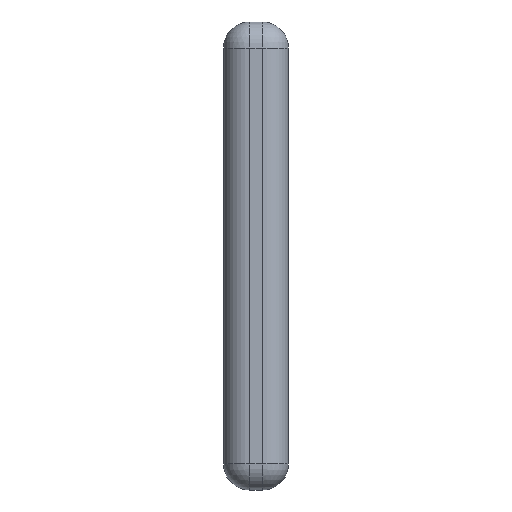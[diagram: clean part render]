
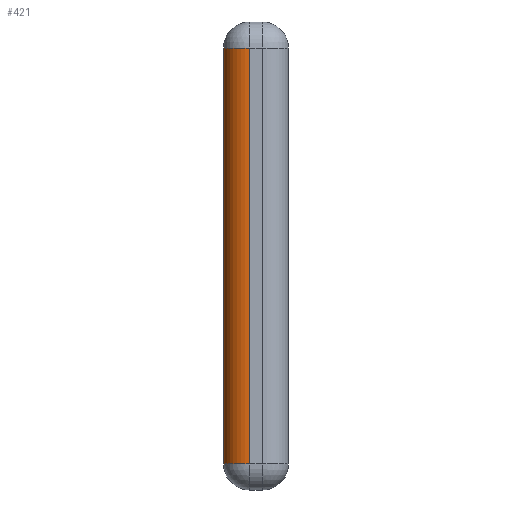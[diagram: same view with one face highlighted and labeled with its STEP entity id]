
A CAD part, front view. The second image highlights one B-rep face of the part: STEP entity #421.
In plain terms, the highlighted cylindrical face has radius 0.8 mm (diameter 1.6 mm), a partial arc.
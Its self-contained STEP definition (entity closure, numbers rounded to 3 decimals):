
#21 = EDGE_CURVE('',#22,#24,#26,.T.);
#22 = VERTEX_POINT('',#23);
#23 = CARTESIAN_POINT('',(-61.2,-1.9,30.6));
#24 = VERTEX_POINT('',#25);
#25 = CARTESIAN_POINT('',(-61.2,-1.9,43.4));
#26 = SURFACE_CURVE('',#27,(#31,#43),.PCURVE_S1.);
#27 = LINE('',#28,#29);
#28 = CARTESIAN_POINT('',(-61.2,-1.9,29.8));
#29 = VECTOR('',#30,1.);
#30 = DIRECTION('',(0.,0.,1.));
#31 = PCURVE('',#32,#37);
#32 = PLANE('',#33);
#33 = AXIS2_PLACEMENT_3D('',#34,#35,#36);
#34 = CARTESIAN_POINT('',(-61.2,-2.7,29.8));
#35 = DIRECTION('',(1.,0.,0.));
#36 = DIRECTION('',(0.,0.,1.));
#37 = DEFINITIONAL_REPRESENTATION('',(#38),#42);
#38 = LINE('',#39,#40);
#39 = CARTESIAN_POINT('',(0.,-0.8));
#40 = VECTOR('',#41,1.);
#41 = DIRECTION('',(1.,0.));
#42 = ( GEOMETRIC_REPRESENTATION_CONTEXT(2) 
PARAMETRIC_REPRESENTATION_CONTEXT() REPRESENTATION_CONTEXT('2D SPACE',''
  ) );
#43 = PCURVE('',#44,#49);
#44 = CYLINDRICAL_SURFACE('',#45,0.8);
#45 = AXIS2_PLACEMENT_3D('',#46,#47,#48);
#46 = CARTESIAN_POINT('',(-60.4,-1.9,29.8));
#47 = DIRECTION('',(0.,0.,1.));
#48 = DIRECTION('',(-1.,-0.,0.));
#49 = DEFINITIONAL_REPRESENTATION('',(#50),#54);
#50 = LINE('',#51,#52);
#51 = CARTESIAN_POINT('',(0.,0.));
#52 = VECTOR('',#53,1.);
#53 = DIRECTION('',(0.,1.));
#54 = ( GEOMETRIC_REPRESENTATION_CONTEXT(2) 
PARAMETRIC_REPRESENTATION_CONTEXT() REPRESENTATION_CONTEXT('2D SPACE',''
  ) );
#421 = ADVANCED_FACE('',(#422),#44,.T.);
#422 = FACE_BOUND('',#423,.T.);
#423 = EDGE_LOOP('',(#424,#425,#454,#482));
#424 = ORIENTED_EDGE('',*,*,#21,.F.);
#425 = ORIENTED_EDGE('',*,*,#426,.T.);
#426 = EDGE_CURVE('',#22,#427,#429,.T.);
#427 = VERTEX_POINT('',#428);
#428 = CARTESIAN_POINT('',(-60.4,-2.7,30.6));
#429 = SURFACE_CURVE('',#430,(#435,#442),.PCURVE_S1.);
#430 = CIRCLE('',#431,0.8);
#431 = AXIS2_PLACEMENT_3D('',#432,#433,#434);
#432 = CARTESIAN_POINT('',(-60.4,-1.9,30.6));
#433 = DIRECTION('',(0.,0.,1.));
#434 = DIRECTION('',(-1.,0.,0.));
#435 = PCURVE('',#44,#436);
#436 = DEFINITIONAL_REPRESENTATION('',(#437),#441);
#437 = LINE('',#438,#439);
#438 = CARTESIAN_POINT('',(0.,0.8));
#439 = VECTOR('',#440,1.);
#440 = DIRECTION('',(1.,0.));
#441 = ( GEOMETRIC_REPRESENTATION_CONTEXT(2) 
PARAMETRIC_REPRESENTATION_CONTEXT() REPRESENTATION_CONTEXT('2D SPACE',''
  ) );
#442 = PCURVE('',#443,#448);
#443 = SPHERICAL_SURFACE('',#444,0.8);
#444 = AXIS2_PLACEMENT_3D('',#445,#446,#447);
#445 = CARTESIAN_POINT('',(-60.4,-1.9,30.6));
#446 = DIRECTION('',(0.,0.,1.));
#447 = DIRECTION('',(-1.,0.,0.));
#448 = DEFINITIONAL_REPRESENTATION('',(#449),#453);
#449 = LINE('',#450,#451);
#450 = CARTESIAN_POINT('',(0.,0.));
#451 = VECTOR('',#452,1.);
#452 = DIRECTION('',(1.,0.));
#453 = ( GEOMETRIC_REPRESENTATION_CONTEXT(2) 
PARAMETRIC_REPRESENTATION_CONTEXT() REPRESENTATION_CONTEXT('2D SPACE',''
  ) );
#454 = ORIENTED_EDGE('',*,*,#455,.T.);
#455 = EDGE_CURVE('',#427,#456,#458,.T.);
#456 = VERTEX_POINT('',#457);
#457 = CARTESIAN_POINT('',(-60.4,-2.7,43.4));
#458 = SURFACE_CURVE('',#459,(#463,#470),.PCURVE_S1.);
#459 = LINE('',#460,#461);
#460 = CARTESIAN_POINT('',(-60.4,-2.7,29.8));
#461 = VECTOR('',#462,1.);
#462 = DIRECTION('',(0.,0.,1.));
#463 = PCURVE('',#44,#464);
#464 = DEFINITIONAL_REPRESENTATION('',(#465),#469);
#465 = LINE('',#466,#467);
#466 = CARTESIAN_POINT('',(1.571,0.));
#467 = VECTOR('',#468,1.);
#468 = DIRECTION('',(0.,1.));
#469 = ( GEOMETRIC_REPRESENTATION_CONTEXT(2) 
PARAMETRIC_REPRESENTATION_CONTEXT() REPRESENTATION_CONTEXT('2D SPACE',''
  ) );
#470 = PCURVE('',#471,#476);
#471 = PLANE('',#472);
#472 = AXIS2_PLACEMENT_3D('',#473,#474,#475);
#473 = CARTESIAN_POINT('',(-61.2,-2.7,29.8));
#474 = DIRECTION('',(0.,1.,0.));
#475 = DIRECTION('',(0.,0.,1.));
#476 = DEFINITIONAL_REPRESENTATION('',(#477),#481);
#477 = LINE('',#478,#479);
#478 = CARTESIAN_POINT('',(0.,0.8));
#479 = VECTOR('',#480,1.);
#480 = DIRECTION('',(1.,0.));
#481 = ( GEOMETRIC_REPRESENTATION_CONTEXT(2) 
PARAMETRIC_REPRESENTATION_CONTEXT() REPRESENTATION_CONTEXT('2D SPACE',''
  ) );
#482 = ORIENTED_EDGE('',*,*,#483,.F.);
#483 = EDGE_CURVE('',#24,#456,#484,.T.);
#484 = SURFACE_CURVE('',#485,(#490,#497),.PCURVE_S1.);
#485 = CIRCLE('',#486,0.8);
#486 = AXIS2_PLACEMENT_3D('',#487,#488,#489);
#487 = CARTESIAN_POINT('',(-60.4,-1.9,43.4));
#488 = DIRECTION('',(0.,0.,1.));
#489 = DIRECTION('',(-1.,0.,0.));
#490 = PCURVE('',#44,#491);
#491 = DEFINITIONAL_REPRESENTATION('',(#492),#496);
#492 = LINE('',#493,#494);
#493 = CARTESIAN_POINT('',(0.,13.6));
#494 = VECTOR('',#495,1.);
#495 = DIRECTION('',(1.,0.));
#496 = ( GEOMETRIC_REPRESENTATION_CONTEXT(2) 
PARAMETRIC_REPRESENTATION_CONTEXT() REPRESENTATION_CONTEXT('2D SPACE',''
  ) );
#497 = PCURVE('',#498,#503);
#498 = SPHERICAL_SURFACE('',#499,0.8);
#499 = AXIS2_PLACEMENT_3D('',#500,#501,#502);
#500 = CARTESIAN_POINT('',(-60.4,-1.9,43.4));
#501 = DIRECTION('',(-0.,-0.,-1.));
#502 = DIRECTION('',(-1.,0.,0.));
#503 = DEFINITIONAL_REPRESENTATION('',(#504),#508);
#504 = LINE('',#505,#506);
#505 = CARTESIAN_POINT('',(-0.,0.));
#506 = VECTOR('',#507,1.);
#507 = DIRECTION('',(-1.,0.));
#508 = ( GEOMETRIC_REPRESENTATION_CONTEXT(2) 
PARAMETRIC_REPRESENTATION_CONTEXT() REPRESENTATION_CONTEXT('2D SPACE',''
  ) );
